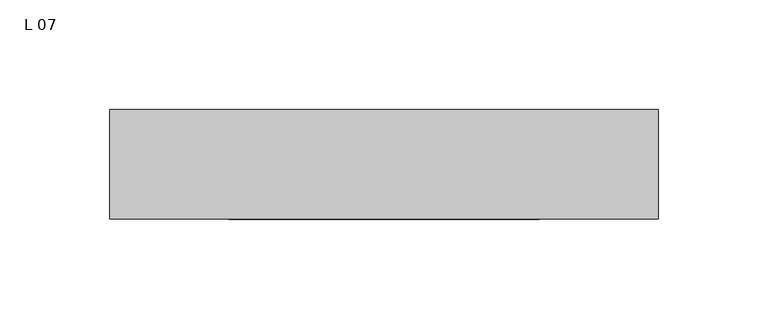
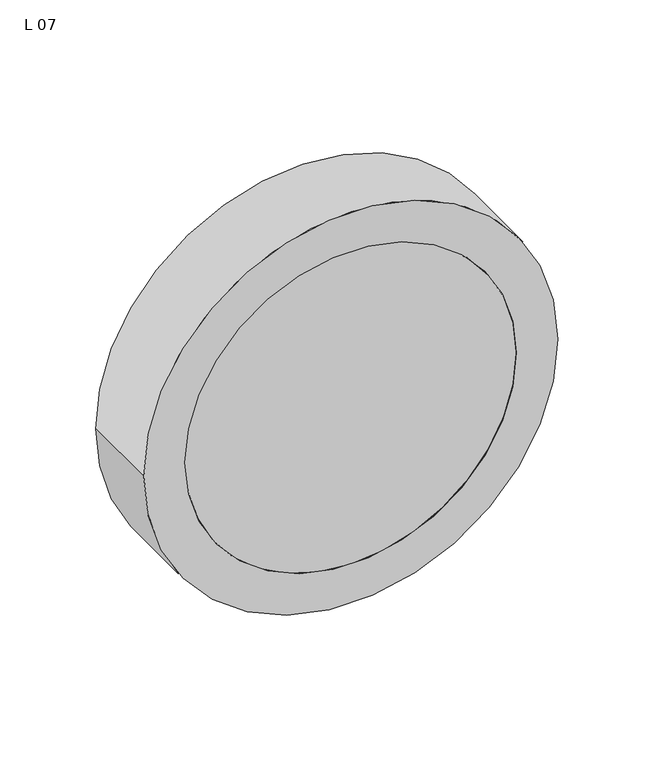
"""IFC4 building model written with IfcOpenShell, lengths in millimetres: light fixture geometry, ZYR_06.02.03 Aplic Circular 2 : L 07."""

from ifc_helpers import new_model, si_unit, point, frame, origin, origin_2d, place, context, project, spatial, circle_curve, trimmed, segment, composite_curve, outline, extrude, source, transform, mapped, element, save


def l_07_8f08173c(model_context):
    return source(origin(), model_context, "Body", "SweptSolid", [
        extrude(outline(composite_curve([segment(trimmed(circle_curve(origin_2d(), 125.0), [point((0.0, -125.0))], [point((0.0, 125.0))], False, "CARTESIAN"), True, "CONTINUOUS"), segment(trimmed(circle_curve(origin_2d(), 125.0), [point((0.0, 125.0))], [point((0.0, -125.0))], False, "CARTESIAN"), True, "CONTINUOUS")], self_intersect=False), holes=[composite_curve([segment(trimmed(circle_curve(origin_2d(), 100.0), [point((0.0, -100.0))], [point((0.0, 100.0))], True, "CARTESIAN"), True, "CONTINUOUS"), segment(trimmed(circle_curve(origin_2d(), 100.0), [point((0.0, 100.0))], [point((0.0, -100.0))], True, "CARTESIAN"), True, "CONTINUOUS")], self_intersect=False)]), frame((0.0, -50.0, 0.0), z_axis=(0.0, 1.0, 0.0), x_axis=(0.0, 0.0, 1.0)), (0.0, 0.0, 1.0), 50.0),
        extrude(outline(composite_curve([segment(trimmed(circle_curve(origin_2d(), 100.0), [point((0.0, -100.0))], [point((0.0, 100.0))], False, "CARTESIAN"), True, "CONTINUOUS"), segment(trimmed(circle_curve(origin_2d(), 100.0), [point((0.0, 100.0))], [point((0.0, -100.0))], False, "CARTESIAN"), True, "CONTINUOUS")], self_intersect=False)), frame((0.0, -50.0, 0.0), z_axis=(0.0, 1.0, 0.0), x_axis=(0.0, 0.0, 1.0)), (0.0, 0.0, 1.0), 2.0),
    ])


if __name__ == "__main__":
    model = new_model("IFC4")
    model_context = context("Model", 3, world=origin())
    ifc_project = project(units=[si_unit("LENGTHUNIT", "METRE", prefix="MILLI")], contexts=[model_context])
    site = spatial("IfcSite", under=ifc_project)
    building = spatial("IfcBuilding", under=site)
    placement = place(None, origin())
    l_07_shape = l_07_8f08173c(model_context)
    element("IfcLightFixture", 1, ObjectType="ZYR_06.02.03 Aplic Circular 2 : L 07", at=placement, inside=building, context=model_context, shape_type="MappedRepresentation", body=[
        mapped(l_07_shape, transform((0.0, 0.0, 0.0), x_axis=(1.0, 0.0, 0.0), y_axis=(0.0, 1.0, 0.0), z_axis=(0.0, 0.0, 1.0))),
    ])
    save(model, "model.ifc")
